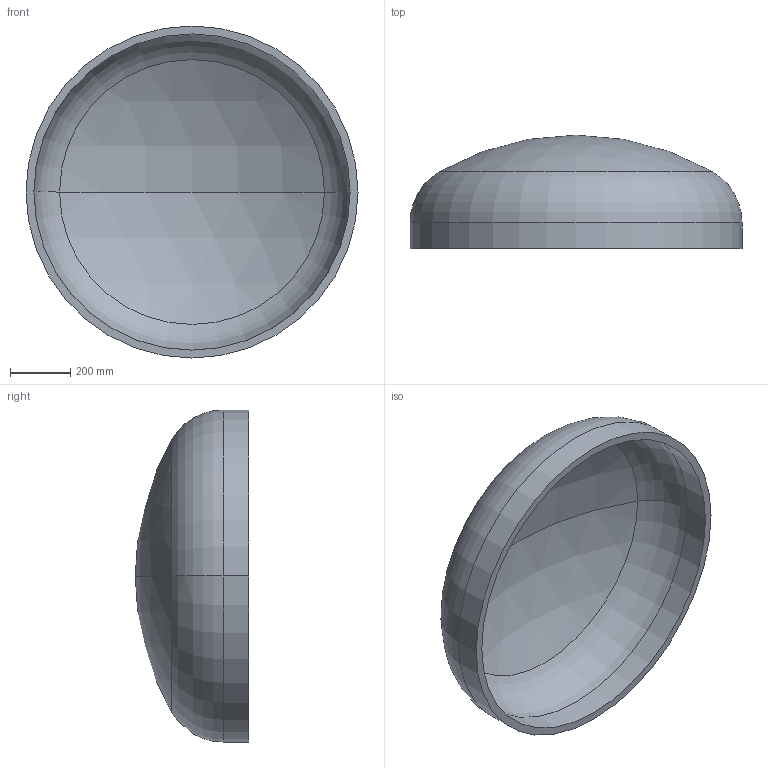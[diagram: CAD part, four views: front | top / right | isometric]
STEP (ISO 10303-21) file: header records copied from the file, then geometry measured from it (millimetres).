
FILE_DESCRIPTION (( 'STEP AP203' ), '1' );
FILE_NAME ('DIN 28013 Korbbogenform_-_Boden DIN 28013 - 1100 x 85 - I - s=26.step', '2016-07-01T09:04:23', ( '' ), ( '' ), 'SwSTEP 2.0', 'SolidWorks 2013', '' );
FILE_SCHEMA (( 'CONFIG_CONTROL_DESIGN' ));
Length unit declared in the file: millimetre
Products named in the file (1): DIN 28013 Korbbogenform_-_Boden DIN 28013 - 1100 x 85 - I - s=26
Bounding box: 1100 x 375.55 x 1100 mm (x, y, z)
Volume: 40655494.6 mm3; surface area: 3216486.5 mm2
Topology: 1 solids, 1 shells, 13 faces, 24 edges, 14 vertices
Faces by surface type: torus 4, cylinder 4, sphere 4, plane 1
Entity records: 407 total; most frequent: DIRECTION 72, CARTESIAN_POINT 52, ORIENTED_EDGE 48, AXIS2_PLACEMENT_3D 34, EDGE_CURVE 24, CIRCLE 20, VERTEX_POINT 14, EDGE_LOOP 14
